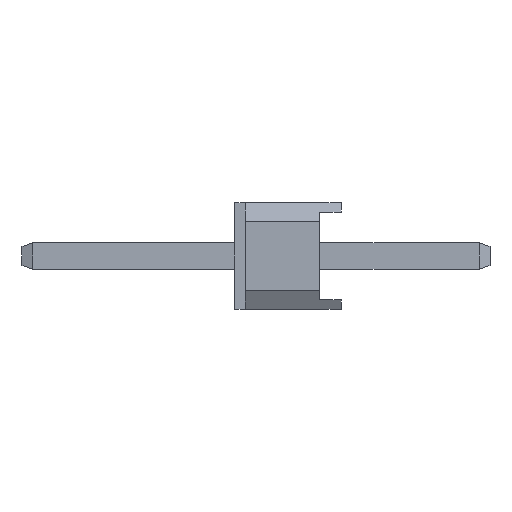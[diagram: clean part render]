
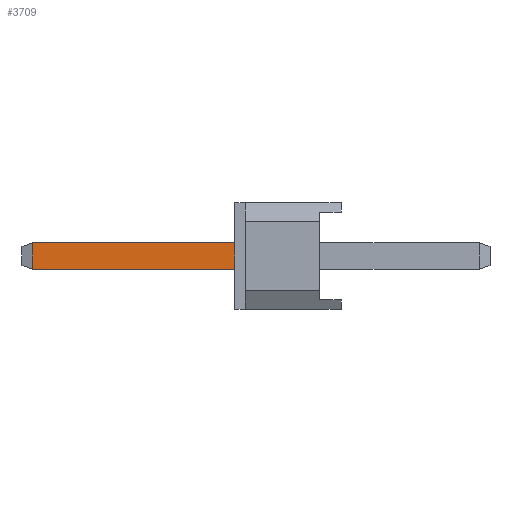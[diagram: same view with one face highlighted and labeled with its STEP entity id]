
A CAD part, left-side view. The second image highlights one B-rep face of the part: STEP entity #3709.
In plain terms, the highlighted planar face has unit normal (-1, 0, 0).
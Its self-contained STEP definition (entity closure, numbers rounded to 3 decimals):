
#461 = ORIENTED_EDGE ( 'NONE', *, *, #462, .T. ) ;
#462 = EDGE_CURVE ( 'NONE', #473, #996, #3459, .T. ) ;
#470 = VERTEX_POINT ( 'NONE', #3502 ) ;
#471 = ORIENTED_EDGE ( 'NONE', *, *, #472, .T. ) ;
#472 = EDGE_CURVE ( 'NONE', #470, #473, #3501, .T. ) ;
#473 = VERTEX_POINT ( 'NONE', #3497 ) ;
#474 = EDGE_CURVE ( 'NONE', #470, #985, #3496, .T. ) ;
#479 = ORIENTED_EDGE ( 'NONE', *, *, #999, .T. ) ;
#985 = VERTEX_POINT ( 'NONE', #10854 ) ;
#996 = VERTEX_POINT ( 'NONE', #10838 ) ;
#999 = EDGE_CURVE ( 'NONE', #996, #985, #10899, .T. ) ;
#3456 = DIRECTION ( 'NONE',  ( 0., -1., 0. ) ) ;
#3457 = VECTOR ( 'NONE', #3456, 1000. ) ;
#3458 = CARTESIAN_POINT ( 'NONE',  ( -18.25, 6., -0.25 ) ) ;
#3459 = LINE ( 'NONE', #3458, #3457 ) ;
#3493 = DIRECTION ( 'NONE',  ( 0., -1., 0. ) ) ;
#3494 = VECTOR ( 'NONE', #3493, 1000. ) ;
#3495 = CARTESIAN_POINT ( 'NONE',  ( -18.25, 6., 0.25 ) ) ;
#3496 = LINE ( 'NONE', #3495, #3494 ) ;
#3497 = CARTESIAN_POINT ( 'NONE',  ( -18.25, 5.8, -0.25 ) ) ;
#3498 = DIRECTION ( 'NONE',  ( 0., 0., -1. ) ) ;
#3499 = VECTOR ( 'NONE', #3498, 1000. ) ;
#3500 = CARTESIAN_POINT ( 'NONE',  ( -18.25, 5.8, -0.25 ) ) ;
#3501 = LINE ( 'NONE', #3500, #3499 ) ;
#3502 = CARTESIAN_POINT ( 'NONE',  ( -18.25, 5.8, 0.25 ) ) ;
#3707 = ORIENTED_EDGE ( 'NONE', *, *, #474, .F. ) ;
#3708 = EDGE_LOOP ( 'NONE', ( #3707, #471, #461, #479 ) ) ;
#3709 = ADVANCED_FACE ( 'NONE', ( #6840 ), #6935, .F. ) ;
#6840 = FACE_OUTER_BOUND ( 'NONE', #3708, .T. ) ;
#6931 = DIRECTION ( 'NONE',  ( 0., 0., -1. ) ) ;
#6932 = DIRECTION ( 'NONE',  ( 1., 0., 0. ) ) ;
#6933 = CARTESIAN_POINT ( 'NONE',  ( -18.25, 6., -0.25 ) ) ;
#6934 = AXIS2_PLACEMENT_3D ( 'NONE', #6933, #6932, #6931 ) ;
#6935 = PLANE ( 'NONE',  #6934 ) ;
#10838 = CARTESIAN_POINT ( 'NONE',  ( -18.25, 2., -0.25 ) ) ;
#10854 = CARTESIAN_POINT ( 'NONE',  ( -18.25, 2., 0.25 ) ) ;
#10896 = DIRECTION ( 'NONE',  ( 0., 0., 1. ) ) ;
#10897 = VECTOR ( 'NONE', #10896, 1000. ) ;
#10898 = CARTESIAN_POINT ( 'NONE',  ( -18.25, 2., -1. ) ) ;
#10899 = LINE ( 'NONE', #10898, #10897 ) ;
